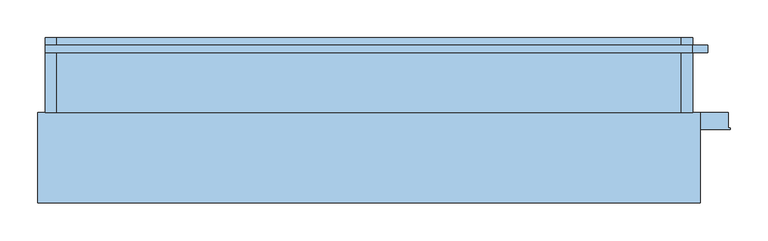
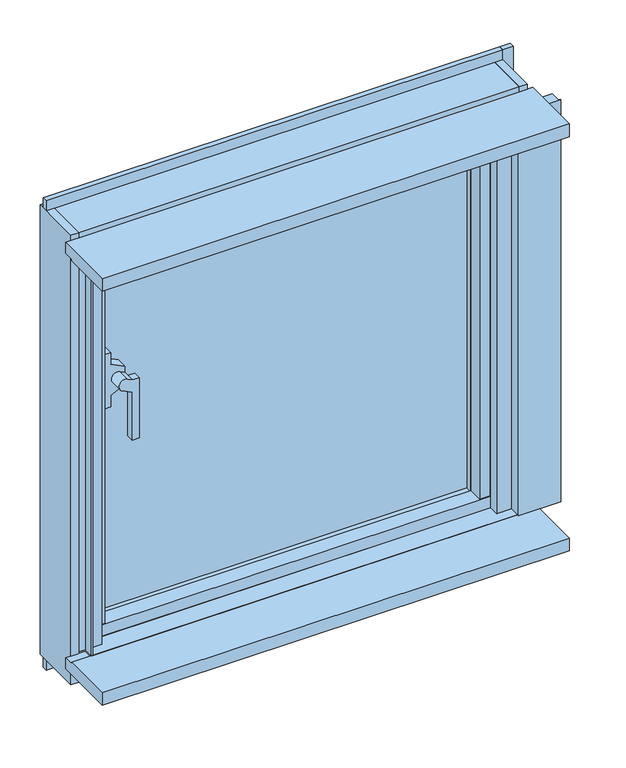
"""IFC4 building model written with IfcOpenShell, lengths in millimetres: window geometry, FNSⅡ100R_非防火_面付枠_単窓 : たてすべりだし."""

from ifc_helpers import new_model, si_unit, frame, origin, place, context, project, spatial, polyline, circle_curve, outline, extrude, faceted_brep, source, transform, mapped, element, save
from ifc_brep_helpers import plane_surface, cylinder_surface, advanced_brep


def window_004d7553(model_context):
    return source(origin(), model_context, "Body", "SolidModel", [
        advanced_brep(
        [(-313.0, 36.25, 1380.7385568), (-313.0, 36.25, 1405.2157929), (-313.0, 26.727, 1405.2157929), (-313.0, 26.727, 1380.7385568), (-313.0, 26.727, 1285.0), (-313.0, 11.75, 1285.0), (-313.0, 11.75, 1380.7385568), (-322.5780089, 11.75, 1409.8870044), (-332.2217924, 11.75, 1390.1128987), (-299.9, 11.75, 1285.0), (-299.9, 11.75, 1405.1670227), (-313.0, 11.75, 1405.1670227), (-322.5780089, 36.25, 1409.8870044), (-332.2217924, 36.25, 1390.1128987), (-299.9, 26.727, 1405.1670227), (-299.9, 26.727, 1285.0)],
        [
            (0, 1),
            (1, 2),
            (2, 3),
            (3, 0),
            (4, 5),
            (5, 6),
            (6, 3),
            (3, 4),
            (7, 8, circle_curve(frame((-327.3999338, 11.75, 1399.9999677), z_axis=(0.0, -1.0, 0.0), x_axis=(1.0, 0.0, 0.0)), 11.0002024)),
            (8, 6),
            (5, 9),
            (9, 10),
            (10, 11),
            (11, 7),
            (12, 1),
            (0, 13),
            (13, 12, circle_curve(frame((-327.3999338, 36.25, 1399.9999677), z_axis=(0.0, 1.0, 0.0), x_axis=(1.0, 0.0, 0.0)), 11.0002024)),
            (7, 12),
            (13, 8),
            (11, 2),
            (14, 15),
            (15, 4),
            (2, 14),
            (15, 9),
            (14, 10),
        ],
        [
            plane_surface(frame((-313.0, 11.75, 1380.7385568), z_axis=(1.0, 0.0, 0.0), x_axis=(0.0, 1.0, 0.0))),
            plane_surface(frame((-313.0, 11.75, 1405.1670227), z_axis=(-1.0, 0.0, 0.0), x_axis=(0.0, 1.0, 0.0))),
            plane_surface(frame((-316.3997314, 11.75, 1399.9999677), z_axis=(0.0, -1.0, 0.0), x_axis=(0.0, 0.0, 1.0))),
            plane_surface(frame((-316.3997314, 36.25, 1399.9999677), z_axis=(0.0, 1.0, 0.0), x_axis=(0.0, 0.0, -1.0))),
            cylinder_surface(frame((-327.3999338, 36.25, 1399.9999677), z_axis=(0.0, -1.0, 0.0), x_axis=(1.0, 0.0, 0.0)), 11.0002024),
            plane_surface(frame((-332.2217924, 11.75, 1390.1128987), z_axis=(-0.4383427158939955, 0.0, -0.8988079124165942), x_axis=(0.0, 1.0, 0.0))),
            plane_surface(frame((-313.0, 11.75, 1405.2157929), z_axis=(0.43834873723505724, 0.0, 0.8988049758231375), x_axis=(0.0, 1.0, 0.0))),
            plane_surface(frame((-312.9, 26.727, 1405.1670227), z_axis=(0.0, 1.0, 0.0), x_axis=(1.0, 0.0, 0.0))),
            plane_surface(frame((-313.0, 11.75, 1285.0), z_axis=(0.0, 0.0, -1.0), x_axis=(0.0, 1.0, 0.0))),
            plane_surface(frame((-299.9, 11.75, 1285.0), z_axis=(1.0, 0.0, 0.0), x_axis=(0.0, 1.0, 0.0))),
            plane_surface(frame((-299.9, 11.75, 1405.1670227), z_axis=(0.0, 0.0, 1.0), x_axis=(0.0, 1.0, 0.0))),
        ],
        [
            (0, [[1, 2, 3, 4]]),
            (1, [[5, 6, 7, 8]]),
            (2, [[9, 10, -6, 11, 12, 13, 14]]),
            (3, [[15, -1, 16, 17]]),
            (4, [[-9, 18, -17, 19]]),
            (5, [[-10, -19, -16, -4, -7]]),
            (6, [[-14, 20, -2, -15, -18]]),
            (7, [[21, 22, -8, -3, 23]]),
            (8, [[-11, -5, -22, 24]]),
            (9, [[-12, -24, -21, 25]]),
            (10, [[-13, -25, -23, -20]]),
        ],
    ),
        extrude(outline(polyline([(1454.0, -353.0), (1346.0, -353.0), (1346.0, -340.0), (1368.8197636, -340.0), (1382.0649514, -313.0), (1417.9350486, -313.0), (1431.1802364, -340.0), (1454.0, -340.0), (1454.0, -353.0)])), frame((0.0, 36.25, 0.0), z_axis=(0.0, 1.0, 0.0), x_axis=(0.0, 0.0, 1.0)), (0.0, 0.0, 1.0), 21.0),
        extrude(outline(polyline([(-353.0, 80.0), (353.0, 80.0), (353.0, 74.0), (-353.0, 74.0), (-353.0, 80.0)])), frame((0.0, 0.0, 919.0), z_axis=(0.0, 0.0, 1.0), x_axis=(1.0, 0.0, 0.0)), (0.0, 0.0, 1.0), 735.0),
        extrude(outline(polyline([(-353.0, 98.0), (353.0, 98.0), (353.0, 92.0), (-353.0, 92.0), (-353.0, 98.0)])), frame((0.0, 0.0, 919.0), z_axis=(0.0, 0.0, 1.0), x_axis=(1.0, 0.0, 0.0)), (0.0, 0.0, 1.0), 735.0),
        faceted_brep([(-400.0, 105.5, 1700.0), (-386.0, 105.5, 1700.0), (-386.0, 103.5, 1700.0), (-372.2, 103.5, 1700.0), (-372.2, 110.0, 1700.0), (-400.0, 110.0, 1700.0), (-400.0, 110.0, 879.0), (-400.0, 105.5, 879.0), (-386.0, 38.0, 879.0), (-372.2, 38.0, 879.0), (-372.2, 38.0, 1684.0), (-386.0, 38.0, 1684.0), (-372.2, 110.0, 879.0), (-372.2, 110.0, 919.0), (-372.2, 61.0, 919.0), (-372.2, 61.0, 1654.0), (-372.2, 110.0, 1654.0), (-372.2, 103.5, 1684.0), (-386.0, 103.5, 1684.0), (-353.0, 61.0, 1654.0), (-353.0, 110.0, 1654.0), (-353.0, 110.0, 919.0), (-353.0, 61.0, 919.0), (-386.0, 105.5, 879.0)], [[[0, 1, 2, 3, 4, 5]], [[0, 5, 6, 7]], [[8, 9, 10, 11]], [[9, 12, 13, 14, 15, 16, 4, 3, 17, 10]], [[18, 17, 3, 2]], [[15, 19, 20, 16]], [[13, 21, 22, 14]], [[7, 6, 12, 9, 8, 23]], [[1, 0, 7, 23]], [[23, 8, 11, 18, 2, 1]], [[5, 4, 16, 20, 21, 13, 12, 6]], [[17, 18, 11, 10]], [[19, 15, 14, 22]], [[20, 19, 22, 21]]]),
        faceted_brep([(400.0, 105.5, 1700.0), (400.0, 110.0, 1700.0), (372.2, 110.0, 1700.0), (372.2, 103.5, 1700.0), (386.0, 103.5, 1700.0), (386.0, 105.5, 1700.0), (400.0, 105.5, 879.0), (400.0, 110.0, 879.0), (372.2, 110.0, 879.0), (372.2, 110.0, 919.0), (353.0, 110.0, 919.0), (353.0, 110.0, 1654.0), (372.2, 110.0, 1654.0), (372.2, 38.0, 879.0), (372.2, 38.0, 1684.0), (372.2, 103.5, 1684.0), (372.2, 61.0, 1654.0), (372.2, 61.0, 919.0), (386.0, 105.5, 879.0), (386.0, 103.5, 1684.0), (353.0, 61.0, 1654.0), (353.0, 61.0, 919.0), (386.0, 38.0, 879.0), (386.0, 38.0, 1684.0)], [[[0, 1, 2, 3, 4, 5]], [[1, 0, 6, 7]], [[2, 1, 7, 8, 9, 10, 11, 12]], [[8, 13, 14, 15, 3, 2, 12, 16, 17, 9]], [[0, 5, 18, 6]], [[15, 19, 4, 3]], [[12, 11, 20, 16]], [[17, 21, 10, 9]], [[20, 11, 10, 21]], [[6, 18, 22, 13, 8, 7]], [[13, 22, 23, 14]], [[22, 18, 5, 4, 19, 23]], [[19, 15, 14, 23]], [[16, 20, 21, 17]]]),
        extrude(outline(polyline([(353.0, 32.5), (353.0, 61.0), (372.2, 61.0), (372.2, 32.5), (353.0, 32.5)])), frame((0.0, 0.0, 922.0), z_axis=(0.0, 0.0, 1.0), x_axis=(1.0, 0.0, 0.0)), (0.0, 0.0, 1.0), 729.0),
        extrude(outline(polyline([(-353.0, 32.5), (-372.2, 32.5), (-372.2, 61.0), (-353.0, 61.0), (-353.0, 32.5)])), frame((0.0, 0.0, 922.0), z_axis=(0.0, 0.0, 1.0), x_axis=(1.0, 0.0, 0.0)), (0.0, 0.0, 1.0), 729.0),
        extrude(outline(polyline([(372.2, 61.0), (372.2, 30.0), (-372.2, 30.0), (-372.2, 61.0), (372.2, 61.0)])), frame((0.0, 0.0, 900.0), z_axis=(0.0, 0.0, 1.0), x_axis=(1.0, 0.0, 0.0)), (0.0, 0.0, 1.0), 22.0),
        extrude(outline(polyline([(110.0, 879.0), (38.0, 879.0), (38.0, 900.0), (61.0, 900.0), (61.0, 919.0), (110.0, 919.0), (110.0, 879.0)])), frame((-372.2, 0.0, 0.0), z_axis=(1.0, 0.0, 0.0), x_axis=(0.0, 1.0, 0.0)), (0.0, 0.0, 1.0), 744.4),
        extrude(outline(polyline([(110.0, 1700.0), (110.0, 1654.0), (61.0, 1654.0), (61.0, 1673.2), (38.0, 1673.2), (38.0, 1684.0), (103.5, 1684.0), (103.5, 1700.0), (110.0, 1700.0)])), frame((-372.2, 0.0, 0.0), z_axis=(1.0, 0.0, 0.0), x_axis=(0.0, 1.0, 0.0)), (0.0, 0.0, 1.0), 744.4),
        extrude(outline(polyline([(372.2, 61.0), (372.2, 30.0), (-372.2, 30.0), (-372.2, 61.0), (372.2, 61.0)])), frame((0.0, 0.0, 1651.0), z_axis=(0.0, 0.0, 1.0), x_axis=(1.0, 0.0, 0.0)), (0.0, 0.0, 1.0), 22.2),
        faceted_brep([(-430.0, 110.0, 1735.0), (-415.0, 110.0, 1735.0), (-415.0, 110.0, 1700.0), (-400.0, 110.0, 1700.0), (-400.0, 110.0, 850.0), (-415.0, 110.0, 850.0), (-415.0, 110.0, 840.0), (-430.0, 110.0, 840.0), (-400.0, 34.0, 850.0), (-378.0, 34.0, 850.0), (-378.0, 29.0, 850.0), (-415.0, 29.0, 850.0), (-378.0, 29.0, 1700.0), (-415.0, 29.0, 1700.0), (-430.0, 10.0, 1735.0), (-415.0, 10.0, 1735.0), (-415.0, 10.0, 840.0), (-430.0, 10.0, 840.0), (-378.0, 34.0, 1700.0), (-400.0, 34.0, 1700.0)], [[[0, 1, 2, 3, 4, 5, 6, 7]], [[4, 8, 9, 10, 11, 5]], [[12, 13, 11, 10]], [[0, 14, 15, 1]], [[7, 6, 16, 17]], [[14, 0, 7, 17]], [[15, 14, 17, 16]], [[1, 15, 16, 6, 5, 11, 13, 2]], [[3, 2, 13, 12, 18, 19]], [[3, 19, 8, 4]], [[18, 12, 10, 9]], [[19, 18, 9, 8]]]),
        faceted_brep([(415.0, 29.0, 1700.0), (378.0, 29.0, 1700.0), (378.0, 29.0, 850.0), (415.0, 29.0, 850.0), (400.0, 34.0, 850.0), (400.0, 110.0, 850.0), (415.0, 110.0, 850.0), (378.0, 34.0, 850.0), (430.0, 10.0, 1735.0), (415.0, 10.0, 1735.0), (415.0, 10.0, 840.0), (430.0, 10.0, 840.0), (430.0, 110.0, 1735.0), (430.0, 110.0, 840.0), (415.0, 110.0, 1735.0), (415.0, 110.0, 1700.0), (415.0, 110.0, 840.0), (400.0, 34.0, 1700.0), (400.0, 110.0, 1700.0), (378.0, 34.0, 1700.0)], [[[0, 1, 2, 3]], [[4, 5, 6, 3, 2, 7]], [[8, 9, 10, 11]], [[12, 8, 11, 13]], [[9, 14, 15, 0, 3, 6, 16, 10]], [[9, 8, 12, 14]], [[10, 16, 13, 11]], [[17, 18, 5, 4]], [[17, 19, 1, 0, 15, 18]], [[14, 12, 13, 16, 6, 5, 18, 15]], [[19, 17, 4, 7]], [[1, 19, 7, 2]]]),
        extrude(outline(polyline([(400.0, -10.0), (400.0, 10.0), (372.0, 10.0), (372.0, 29.0), (415.0, 29.0), (415.0, 10.0), (403.0, 10.0), (403.0, -10.0), (400.0, -10.0)])), frame((0.0, 0.0, 900.0), z_axis=(0.0, 0.0, 1.0), x_axis=(1.0, 0.0, 0.0)), (0.0, 0.0, 1.0), 803.0),
        extrude(outline(polyline([(-415.0, 10.0), (-415.0, 29.0), (-372.0, 29.0), (-372.0, 10.0), (-400.0, 10.0), (-400.0, -10.0), (-403.0, -10.0), (-403.0, 10.0), (-415.0, 10.0)])), frame((0.0, 0.0, 900.0), z_axis=(0.0, 0.0, 1.0), x_axis=(1.0, 0.0, 0.0)), (0.0, 0.0, 1.0), 803.0),
        extrude(outline(polyline([(10.0, 890.0), (10.0, 897.0), (-10.0, 897.0), (-10.0, 900.0), (29.0, 900.0), (29.0, 890.0), (10.0, 890.0)])), frame((-403.0, 0.0, 0.0), z_axis=(1.0, 0.0, 0.0), x_axis=(0.0, 1.0, 0.0)), (0.0, 0.0, 1.0), 806.0),
        extrude(outline(polyline([(110.0, 840.0), (10.0, 840.0), (10.0, 890.0), (34.0, 890.0), (34.0, 865.0), (99.0, 865.0), (99.0, 850.0), (110.0, 850.0), (110.0, 840.0)])), frame((-415.0, 0.0, 0.0), z_axis=(1.0, 0.0, 0.0), x_axis=(0.0, 1.0, 0.0)), (0.0, 0.0, 1.0), 830.0),
        extrude(outline(polyline([(29.0, 1673.0), (7.5, 1673.0), (7.5, 1700.0), (-10.0, 1700.0), (-10.0, 1703.0), (10.0, 1703.0), (10.0, 1712.5), (29.0, 1712.5), (29.0, 1673.0)])), frame((-400.0, 0.0, 0.0), z_axis=(1.0, 0.0, 0.0), x_axis=(0.0, 1.0, 0.0)), (0.0, 0.0, 1.0), 800.0),
        extrude(outline(polyline([(110.0, 1700.0), (34.0, 1700.0), (34.0, 1679.0), (29.0, 1679.0), (29.0, 1712.5), (10.0, 1712.5), (10.0, 1735.0), (110.0, 1735.0), (110.0, 1700.0)])), frame((-415.0, 0.0, 0.0), z_axis=(1.0, 0.0, 0.0), x_axis=(0.0, 1.0, 0.0)), (0.0, 0.0, 1.0), 830.0),
        extrude(outline(polyline([(450.0, 90.0), (430.0, 90.0), (430.0, 100.0), (450.0, 100.0), (450.0, 90.0)])), frame((0.0, 0.0, 820.0), z_axis=(0.0, 0.0, 1.0), x_axis=(1.0, 0.0, 0.0)), (0.0, 0.0, 1.0), 935.0),
        extrude(outline(polyline([(403.0, -10.0), (403.0, 10.0), (477.0, 10.0), (477.0, -10.0), (480.0, -10.0), (480.0, -12.5), (400.0, -12.5), (400.0, -10.0), (403.0, -10.0)])), frame((0.0, 0.0, 900.0), z_axis=(0.0, 0.0, 1.0), x_axis=(1.0, 0.0, 0.0)), (0.0, 0.0, 1.0), 800.0),
        extrude(outline(polyline([(-110.0, 900.0), (-10.0, 900.0), (-10.0, 897.0), (10.0, 897.0), (10.0, 875.0), (-110.0, 875.0), (-110.0, 900.0)])), frame((-440.0, 0.0, 0.0), z_axis=(1.0, 0.0, 0.0), x_axis=(0.0, 1.0, 0.0)), (0.0, 0.0, 1.0), 880.0),
        extrude(outline(polyline([(-430.0, 90.0), (-430.0, 100.0), (430.0, 100.0), (430.0, 90.0), (-430.0, 90.0)])), frame((0.0, 0.0, 820.0), z_axis=(0.0, 0.0, 1.0), x_axis=(1.0, 0.0, 0.0)), (0.0, 0.0, 1.0), 20.0),
        extrude(outline(polyline([(-110.0, 1725.0), (10.0, 1725.0), (10.0, 1703.0), (-10.0, 1703.0), (-10.0, 1700.0), (-110.0, 1700.0), (-110.0, 1725.0)])), frame((-440.0, 0.0, 0.0), z_axis=(1.0, 0.0, 0.0), x_axis=(0.0, 1.0, 0.0)), (0.0, 0.0, 1.0), 880.0),
        extrude(outline(polyline([(-430.0, 90.0), (-430.0, 100.0), (430.0, 100.0), (430.0, 90.0), (-430.0, 90.0)])), frame((0.0, 0.0, 1735.0), z_axis=(0.0, 0.0, 1.0), x_axis=(1.0, 0.0, 0.0)), (0.0, 0.0, 1.0), 20.0),
    ])


if __name__ == "__main__":
    model = new_model("IFC4")
    model_context = context("Model", 3, world=origin())
    ifc_project = project(units=[si_unit("LENGTHUNIT", "METRE", prefix="MILLI")], contexts=[model_context])
    site = spatial("IfcSite", under=ifc_project)
    building = spatial("IfcBuilding", under=site)
    placement = place(None, origin())
    window_shape = window_004d7553(model_context)
    element("IfcWindow", 1, ObjectType="FNSⅡ100R_非防火_面付枠_単窓 : たてすべりだし", at=placement, inside=building, context=model_context, shape_type="MappedRepresentation", body=[
        mapped(window_shape, transform((0.0, 0.0, 0.0), x_axis=(1.0, 0.0, 0.0), y_axis=(0.0, 1.0, 0.0), z_axis=(0.0, 0.0, 1.0))),
    ])
    save(model, "model.ifc")
